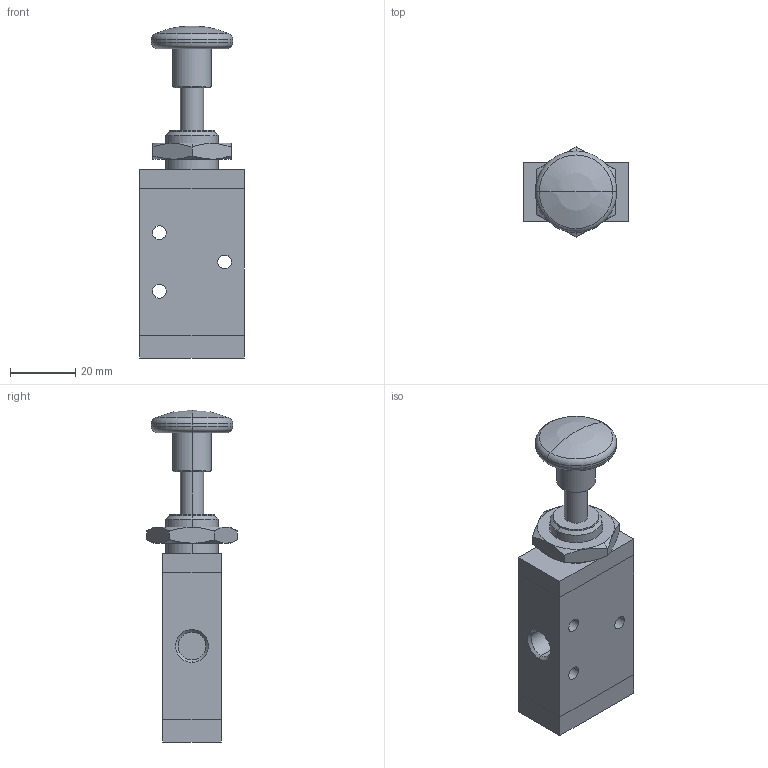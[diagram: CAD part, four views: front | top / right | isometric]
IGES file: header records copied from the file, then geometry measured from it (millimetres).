
Global section: file name: No Iges File Name specified; native system: AutoDesk Inventor R11.0; preprocessor: AutoDesk Inventor Iges Exporter R11.0; author: No Author specified; organization: No Organization specified; date: 20061219.113920; units: millimetre
Bounding box: 32 x 27.71 x 102 mm (x, y, z)
Volume: 39643.6 mm3; surface area: 11889.2 mm2
Topology: 2 solids, 2 shells, 78 faces, 172 edges, 105 vertices
Faces by surface type: plane 27, bspline 21, cylinder 10, revolution 8, cone 6, torus 4, sphere 2
